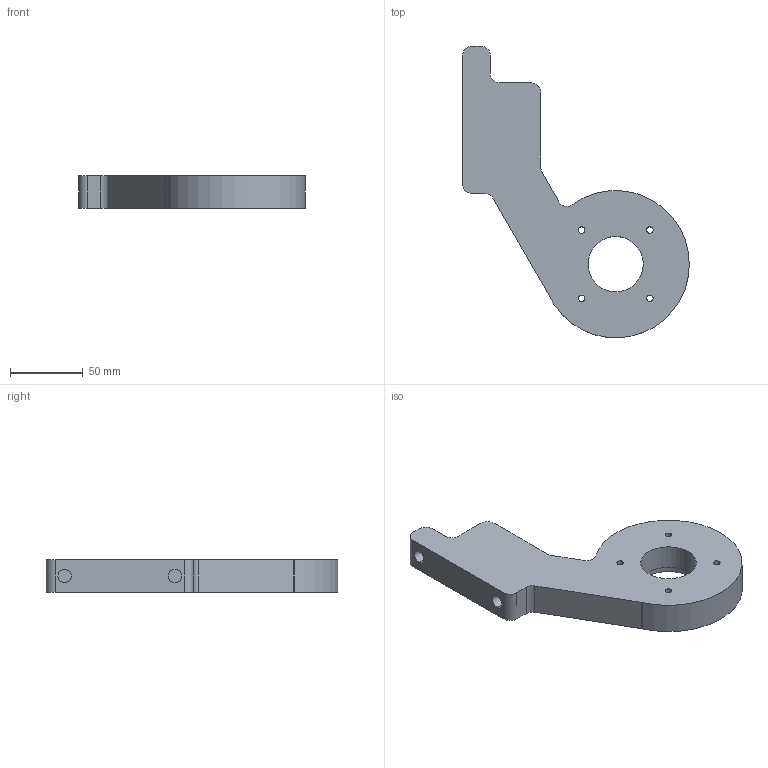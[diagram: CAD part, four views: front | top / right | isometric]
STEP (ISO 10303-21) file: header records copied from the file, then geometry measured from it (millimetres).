
FILE_DESCRIPTION (( 'STEP AP203' ), '1' );
FILE_NAME ('middle arm 1 rev1.STEP', '2026-03-12T23:46:06', ( '' ), ( '' ), 'SwSTEP 2.0', 'SolidWorks 2025', '' );
FILE_SCHEMA (( 'CONFIG_CONTROL_DESIGN' ));
Length unit declared in the file: millimetre
Products named in the file (1): middle arm 1 rev1
Bounding box: 156.33 x 201.14 x 22.23 mm (x, y, z)
Volume: 285890.2 mm3; surface area: 44299.6 mm2
Topology: 1 solids, 1 shells, 39 faces, 102 edges, 68 vertices
Faces by surface type: cylinder 26, plane 13
Entity records: 1325 total; most frequent: DIRECTION 234, CARTESIAN_POINT 210, ORIENTED_EDGE 204, EDGE_CURVE 102, AXIS2_PLACEMENT_3D 92, VERTEX_POINT 68, EDGE_LOOP 52, CIRCLE 52
